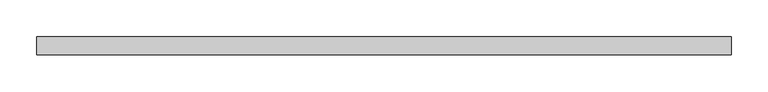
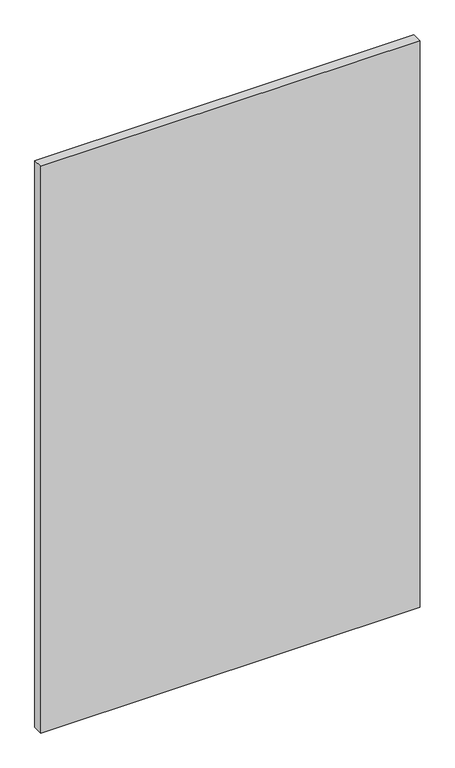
"""IFC4 building model written with IfcOpenShell, lengths in millimetres: plate geometry, Системная панель : С остеклением."""

import ifcopenshell
import ifcopenshell.guid

model = None  # the IFC model being written
_history = None  # IfcOwnerHistory: only IFC2X3 demands one
_inside = {}  # id of a spatial element -> (the spatial element, [elements in it])
_under = {}  # id of a project, library or spatial element -> (it, [spatial elements below it])
_declared = {}  # id of a project -> (the project, [libraries it declares])
_typed = {}  # id of a type object -> (the type object, [elements of that type])
_made_of = {}  # id of a material, layer set ... -> (it, [elements and type objects made of it])


def new_model(schema):
    """Start an empty IFC model of exactly this schema.

    Asked for "IFC4X3", IfcOpenShell would pick the latest addendum, in which some entities
    have other attributes; the version numbers below select the first issue.
    IFC2X3 requires an IfcOwnerHistory on every rooted entity: one is made here for all.
    """
    global model, _history
    if schema == "IFC4X3":
        model = ifcopenshell.file(schema_version=(4, 3, 0, 0))
    else:
        model = ifcopenshell.file(schema=schema)
    _inside.clear()
    _under.clear()
    _declared.clear()
    _typed.clear()
    _made_of.clear()
    _history = None
    if model.schema == "IFC2X3":
        org = make("IfcOrganization", Name="unknown")
        user = make(
            "IfcPersonAndOrganization",
            ThePerson=make("IfcPerson", FamilyName="unknown"),
            TheOrganization=org,
        )
        app = make(
            "IfcApplication",
            ApplicationDeveloper=org,
            Version="unknown",
            ApplicationFullName="unknown",
            ApplicationIdentifier="unknown",
        )
        _history = make(
            "IfcOwnerHistory",
            OwningUser=user,
            OwningApplication=app,
            ChangeAction="ADDED",
            CreationDate=0,
        )
    return model


def make(cls, **values):
    """One entity of the class cls with the attributes given. An attribute that is None is left unset."""
    return model.create_entity(
        cls, **{name: value for name, value in values.items() if value is not None}
    )


def rooted(cls, **values):
    """An entity with a GlobalId (a new one), such as an element, a storey or a relation."""
    return make(cls, GlobalId=ifcopenshell.guid.new(), OwnerHistory=_history, **values)


def si_unit(unit_type, name, prefix=None):
    """IfcSIUnit, for example si_unit("LENGTHUNIT", "METRE", prefix="MILLI")."""
    return make("IfcSIUnit", UnitType=unit_type, Prefix=prefix, Name=name)


def assignment(units):
    """IfcUnitAssignment: the units of a project."""
    return None if units is None else make("IfcUnitAssignment", Units=units)


def point(xyz):
    """IfcCartesianPoint."""
    return None if xyz is None else make("IfcCartesianPoint", Coordinates=xyz)


def direction(xyz):
    """IfcDirection."""
    return None if xyz is None else make("IfcDirection", DirectionRatios=xyz)


def frame(location, z_axis=None, x_axis=None):
    """IfcAxis2Placement3D, a coordinate frame: its origin and axes. An axis left out is left unset."""
    return make(
        "IfcAxis2Placement3D",
        Location=point(location),
        Axis=direction(z_axis),
        RefDirection=direction(x_axis),
    )


def origin():
    """The frame at (0, 0, 0) with its axes left unset."""
    return frame((0.0, 0.0, 0.0))


def origin_with_axes():
    """The frame at (0, 0, 0) with the z axis (0, 0, 1) and the x axis (1, 0, 0) written out."""
    return frame((0.0, 0.0, 0.0), z_axis=(0.0, 0.0, 1.0), x_axis=(1.0, 0.0, 0.0))


def place(relative_to, where):
    """IfcLocalPlacement: puts the frame where relative to a parent placement (None: the world)."""
    return make(
        "IfcLocalPlacement", PlacementRelTo=relative_to, RelativePlacement=where
    )


def context(
    kind, dimensions, precision=None, world=None, true_north=None, identifier=None
):
    """IfcGeometricRepresentationContext, for example the 3D "Model" context."""
    return make(
        "IfcGeometricRepresentationContext",
        ContextIdentifier=identifier,
        ContextType=kind,
        CoordinateSpaceDimension=dimensions,
        Precision=precision,
        WorldCoordinateSystem=world,
        TrueNorth=true_north,
    )


def project(units=None, contexts=None):
    """IfcProject with its units and contexts."""
    return rooted(
        "IfcProject",
        Name="project",
        RepresentationContexts=contexts,
        UnitsInContext=assignment(units),
    )


def spatial(cls, under=None, at=None, **own):
    """A site, building, storey or space (cls), placed at a placement, below another one or the project."""
    s = rooted(cls, ObjectPlacement=at, **own)
    if under is not None:
        _under.setdefault(under.id(), (under, []))[1].append(s)
    return s


def polyline(points):
    """IfcPolyline through the points."""
    return make("IfcPolyline", Points=[point(p) for p in points])


def outline(outer, holes=None, kind="AREA"):
    """IfcArbitraryClosedProfileDef: a profile drawn as a closed curve; with holes, ...WithVoids."""
    if holes is None:
        return make("IfcArbitraryClosedProfileDef", ProfileType=kind, OuterCurve=outer)
    return make(
        "IfcArbitraryProfileDefWithVoids",
        ProfileType=kind,
        OuterCurve=outer,
        InnerCurves=holes,
    )


def extrude(swept, where, along, depth):
    """IfcExtrudedAreaSolid: the profile swept, set in the frame where, extruded along a direction by depth."""
    return make(
        "IfcExtrudedAreaSolid",
        SweptArea=swept,
        Position=where,
        ExtrudedDirection=direction(along),
        Depth=depth,
    )


def shape(context_of_items, identifier, shape_type, items):
    """IfcShapeRepresentation: the items that make up one representation, for example the "Body"."""
    return make(
        "IfcShapeRepresentation",
        ContextOfItems=context_of_items,
        RepresentationIdentifier=identifier,
        RepresentationType=shape_type,
        Items=items,
    )


def source(mapping_origin, context_of_items, identifier, shape_type, items):
    """IfcRepresentationMap: a shape defined once, which mapped items show again and again."""
    return make(
        "IfcRepresentationMap",
        MappingOrigin=mapping_origin,
        MappedRepresentation=shape(context_of_items, identifier, shape_type, items),
    )


def transform(
    local_origin,
    x_axis=None,
    y_axis=None,
    z_axis=None,
    scale=None,
    scale2=None,
    scale3=None,
    uniform=True,
):
    """IfcCartesianTransformationOperator3D, or its non-uniform kind. x_axis, y_axis, z_axis: its Axis1, 2, 3."""
    if uniform:
        return make(
            "IfcCartesianTransformationOperator3D",
            Axis1=direction(x_axis),
            Axis2=direction(y_axis),
            LocalOrigin=point(local_origin),
            Scale=scale,
            Axis3=direction(z_axis),
        )
    return make(
        "IfcCartesianTransformationOperator3DnonUniform",
        Axis1=direction(x_axis),
        Axis2=direction(y_axis),
        LocalOrigin=point(local_origin),
        Scale=scale,
        Axis3=direction(z_axis),
        Scale2=scale2,
        Scale3=scale3,
    )


def mapped(mapping_source, mapping_target):
    """IfcMappedItem: shows the shape of a source again, moved by a transform."""
    return make(
        "IfcMappedItem", MappingSource=mapping_source, MappingTarget=mapping_target
    )


def made_of(thing, what):
    """Note that an element or type object is made of a material, layer set ...; save() writes the relation."""
    if what is not None:
        _made_of.setdefault(what.id(), (what, []))[1].append(thing)
    return thing


def element(
    cls,
    number,
    at=None,
    inside=None,
    cuts=None,
    type_object=None,
    material=None,
    context=None,
    identifier="Body",
    shape_type=None,
    held_by="IfcProductDefinitionShape",
    body=None,
    shapes=None,
    **own,
):
    """One element of the class cls, such as IfcWall. Its Tag is "e" and its number.

    at: its placement. inside: the storey or other place that contains it. cuts: it is an
    opening in that element (IfcRelVoidsElement). A single representation is given by context,
    identifier, shape_type and body (its items); several are given by shapes. held_by: the class
    of the entity that holds the representations. save() writes the other relations.
    """
    e = rooted(cls, Tag="e%d" % number, ObjectPlacement=at, **own)
    if body is not None:
        shapes = [shape(context, identifier, shape_type, body)]
    if shapes is not None:
        e.Representation = make(held_by, Representations=shapes)
    if inside is not None:
        _inside.setdefault(inside.id(), (inside, []))[1].append(e)
    if cuts is not None:
        rooted(
            "IfcRelVoidsElement", RelatingBuildingElement=cuts, RelatedOpeningElement=e
        )
    if type_object is not None:
        _typed.setdefault(type_object.id(), (type_object, []))[1].append(e)
    return made_of(e, material)


def aggregate(whole, parts):
    """IfcRelAggregates: a whole, such as a stair, and the parts it consists of."""
    return rooted("IfcRelAggregates", RelatingObject=whole, RelatedObjects=parts)


def save(model, path):
    """Write the relations noted so far, then the file.

    IfcRelAggregates (storeys below a building ...), IfcRelContainedInSpatialStructure (elements
    in a storey), IfcRelDefinesByType, IfcRelAssociatesMaterial and IfcRelDeclares: one each for
    every whole, place, type object, material and project.
    """
    for whole, parts in _under.values():
        aggregate(whole, parts)
    for where, things in _inside.values():
        rooted(
            "IfcRelContainedInSpatialStructure",
            RelatedElements=things,
            RelatingStructure=where,
        )
    for kind, things in _typed.values():
        rooted("IfcRelDefinesByType", RelatedObjects=things, RelatingType=kind)
    for what, things in _made_of.values():
        rooted("IfcRelAssociatesMaterial", RelatedObjects=things, RelatingMaterial=what)
    for by, libraries in _declared.values():
        rooted("IfcRelDeclares", RelatingContext=by, RelatedDefinitions=libraries)
    model.write(path)


def plate_6929f87e(model_context):
    return source(origin(), model_context, "Body", "SweptSolid", [
        extrude(outline(polyline([(475.0, 24.5), (-475.0, 24.5), (-475.0, 49.5), (475.0, 49.5), (475.0, 24.5)])), origin_with_axes(), (0.0, 0.0, 1.0), 1500.0),
    ])


if __name__ == "__main__":
    model = new_model("IFC4")
    model_context = context("Model", 3, world=origin())
    ifc_project = project(units=[si_unit("LENGTHUNIT", "METRE", prefix="MILLI")], contexts=[model_context])
    site = spatial("IfcSite", under=ifc_project)
    building = spatial("IfcBuilding", under=site)
    placement = place(None, origin())
    plate_shape = plate_6929f87e(model_context)
    element("IfcPlate", 1, ObjectType="Системная панель : С остеклением", at=placement, inside=building, context=model_context, shape_type="MappedRepresentation", body=[
        mapped(plate_shape, transform((0.0, 0.0, 0.0), x_axis=(1.0, 0.0, 0.0), y_axis=(0.0, 1.0, 0.0), z_axis=(0.0, 0.0, 1.0))),
    ])
    save(model, "model.ifc")
